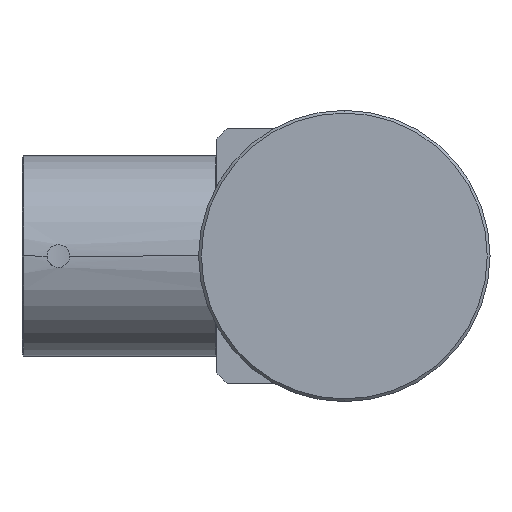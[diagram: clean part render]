
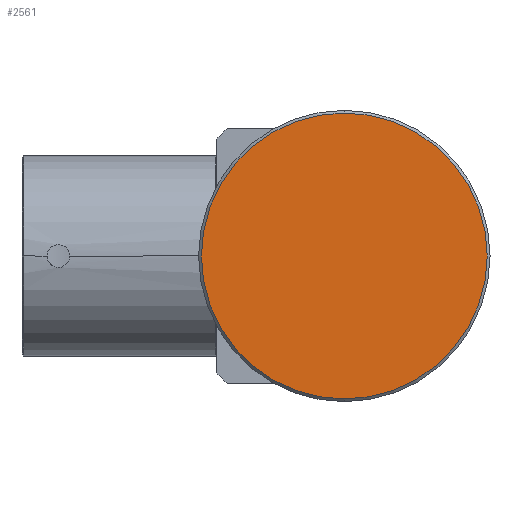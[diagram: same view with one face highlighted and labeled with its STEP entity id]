
A CAD part, left-side view. The second image highlights one B-rep face of the part: STEP entity #2561.
In plain terms, the highlighted planar face has unit normal (-1, 0, 0).
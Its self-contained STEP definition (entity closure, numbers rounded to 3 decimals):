
#26 = EDGE_LOOP ( 'NONE', ( #2713, #1722 ) ) ;
#157 = AXIS2_PLACEMENT_3D ( 'NONE', #1869, #1457, #1815 ) ;
#174 = CARTESIAN_POINT ( 'NONE',  ( 0., 0., 0. ) ) ;
#300 = DIRECTION ( 'NONE',  ( 0., 0., -1. ) ) ;
#678 = DIRECTION ( 'NONE',  ( -1., 0., 0. ) ) ;
#723 = EDGE_CURVE ( 'NONE', #947, #1979, #4565, .T. ) ;
#788 = CARTESIAN_POINT ( 'NONE',  ( 0., 0., 15.7 ) ) ;
#947 = VERTEX_POINT ( 'NONE', #788 ) ;
#1410 = AXIS2_PLACEMENT_3D ( 'NONE', #174, #2019, #2429 ) ;
#1457 = DIRECTION ( 'NONE',  ( 1., 0., 0. ) ) ;
#1722 = ORIENTED_EDGE ( 'NONE', *, *, #723, .T. ) ;
#1796 = CIRCLE ( 'NONE', #1410, 15.7 ) ;
#1815 = DIRECTION ( 'NONE',  ( 0., 0., -1. ) ) ;
#1869 = CARTESIAN_POINT ( 'NONE',  ( 0., 14.75, 0. ) ) ;
#1979 = VERTEX_POINT ( 'NONE', #2145 ) ;
#2019 = DIRECTION ( 'NONE',  ( -1., 0., 0. ) ) ;
#2145 = CARTESIAN_POINT ( 'NONE',  ( 0., 0., -15.7 ) ) ;
#2429 = DIRECTION ( 'NONE',  ( 0., 0., -1. ) ) ;
#2561 = ADVANCED_FACE ( 'NONE', ( #3663 ), #3959, .F. ) ;
#2713 = ORIENTED_EDGE ( 'NONE', *, *, #4152, .T. ) ;
#3663 = FACE_OUTER_BOUND ( 'NONE', #26, .T. ) ;
#3819 = AXIS2_PLACEMENT_3D ( 'NONE', #3948, #678, #300 ) ;
#3948 = CARTESIAN_POINT ( 'NONE',  ( 0., 0., 0. ) ) ;
#3959 = PLANE ( 'NONE',  #157 ) ;
#4152 = EDGE_CURVE ( 'NONE', #1979, #947, #1796, .T. ) ;
#4565 = CIRCLE ( 'NONE', #3819, 15.7 ) ;
